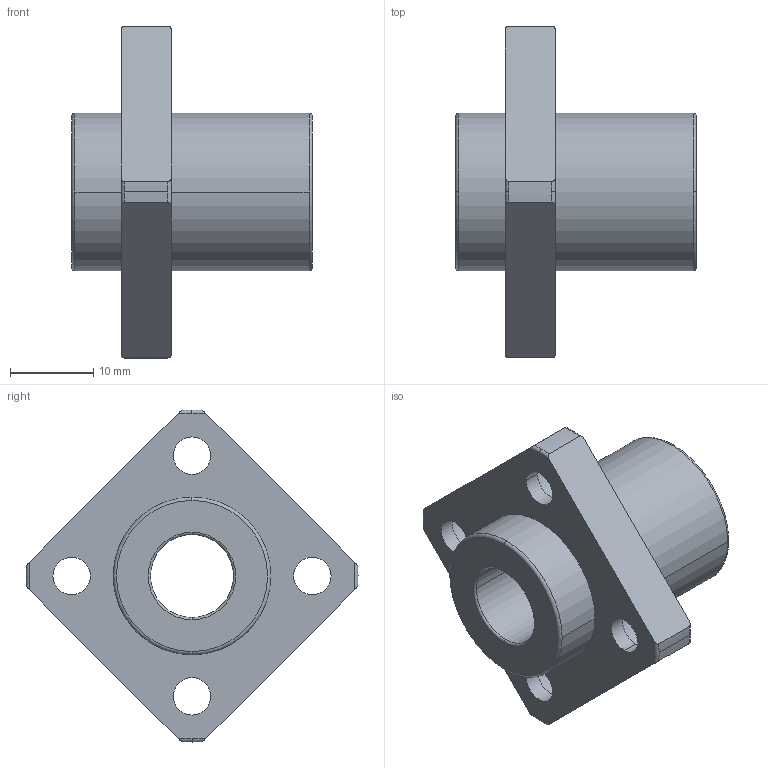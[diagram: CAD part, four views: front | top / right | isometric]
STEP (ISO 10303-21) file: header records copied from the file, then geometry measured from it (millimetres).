
FILE_DESCRIPTION(('FreeCAD Model'),'2;1');
FILE_NAME('Open CASCADE Shape Model','2021-05-03T14:02:02',('Author'),( ''),'Open CASCADE STEP processor 7.5','FreeCAD','Unknown');
FILE_SCHEMA(('AUTOMOTIVE_DESIGN { 1 0 10303 214 1 1 1 1 }'));
Length unit declared in the file: millimetre
Products named in the file (1): linear_lmkp10uu
Bounding box: 29 x 40 x 40 mm (x, y, z)
Volume: 8756.2 mm3; surface area: 4944.7 mm2
Topology: 1 solids, 1 shells, 60 faces, 160 edges, 108 vertices
Faces by surface type: cylinder 28, torus 20, plane 12
Entity records: 6032 total; most frequent: CARTESIAN_POINT 2829, DIRECTION 620, ORIENTED_EDGE 320, PCURVE 320, DEFINITIONAL_REPRESENTATION 320, LINE 268, VECTOR 268, AXIS2_PLACEMENT_3D 165
